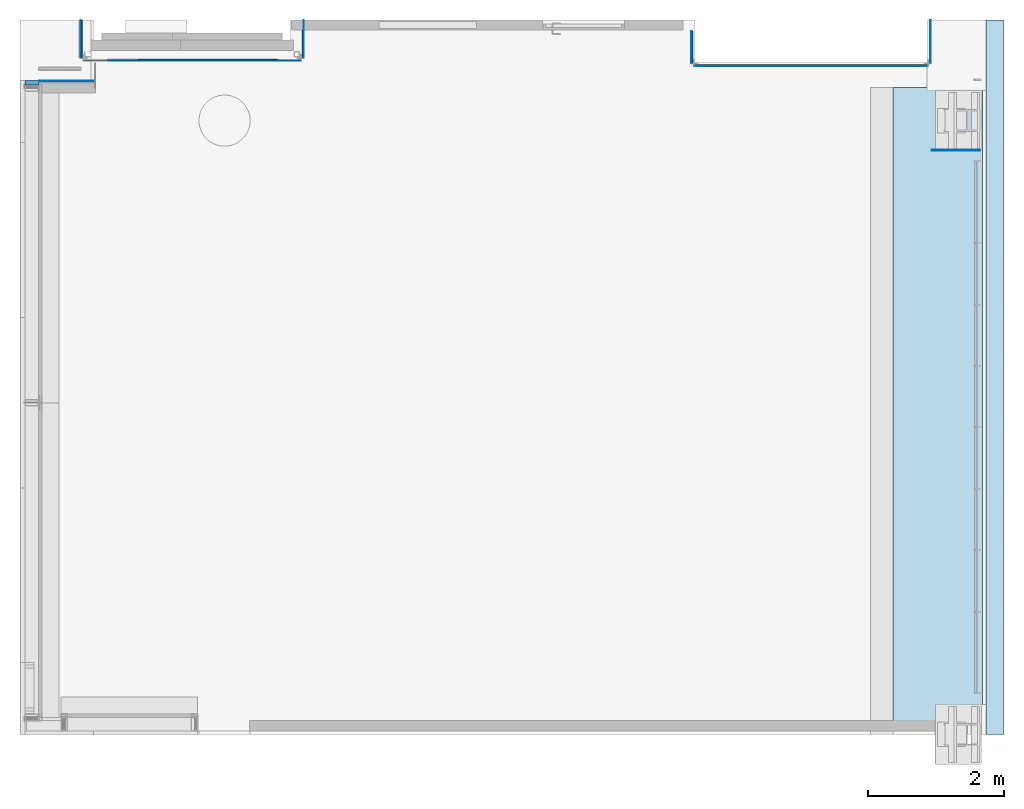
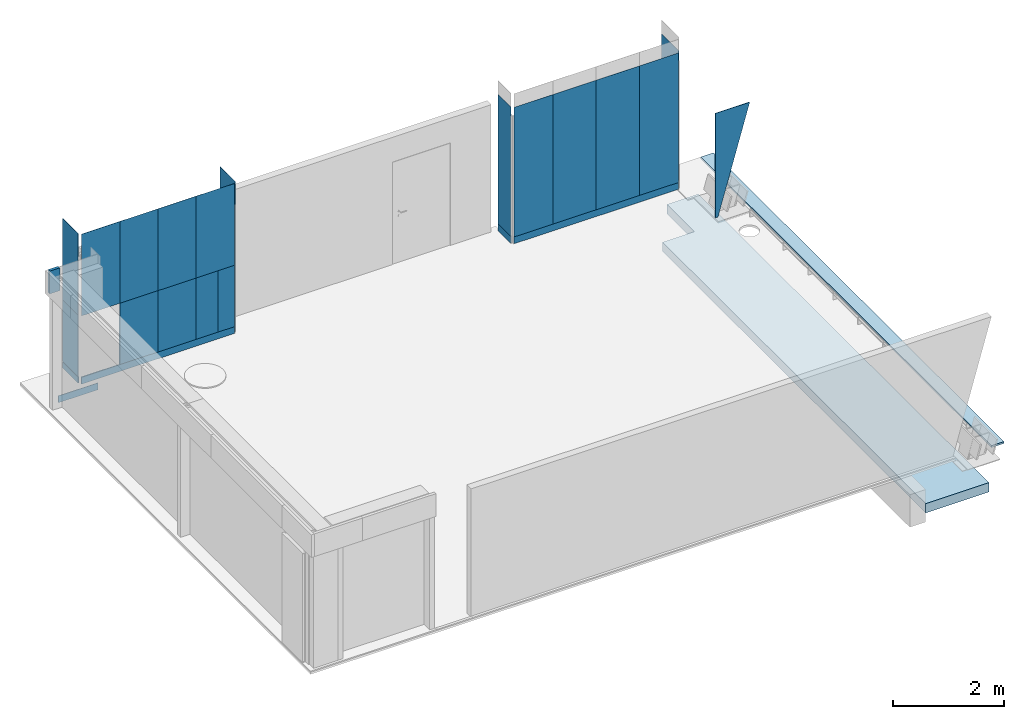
# One storey, part 5 of 14: 26 plates, 2 slabs, 11 elements without a shape of their own.
"""IFC2X3 building model written with IfcOpenShell, lengths in millimetres."""

from ifc_helpers import new_model, entity, si_unit, converted_unit, derived_unit, direction, frame, frame_2d, origin, origin_with_axes, origin_2d_with_axis, place, context, subcontext, project, spatial, polyline, rectangle, outline, extrude, faceted_brep, source, transform, mapped, material, layer, layer_set, type_object, element, aggregate, save


model = new_model("IFC2X3")

# Units and contexts
model_context = context("Model", 3, precision=0.01, world=frame((0.0, 4.29681676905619e-09, 0.0)), true_north=direction((4.01073788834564e-13, 1.0)))
plan_context = context("Plan", 3, precision=0.01, world=frame((0.0, 4.29681676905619e-09, 0.0)), true_north=direction((4.01073788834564e-13, 1.0)))
body_context = subcontext(model_context, "Body", "Model", "MODEL_VIEW")
ifc_project = project(units=[converted_unit("PLANEANGLEUNIT", "DEGREE", entity("IfcPositiveLengthMeasure", 0.0174532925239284), si_unit("PLANEANGLEUNIT", "RADIAN"), dimensions=[0, 0, 0, 0, 0, 0, 0]), si_unit("AREAUNIT", "SQUARE_METRE"), si_unit("LENGTHUNIT", "METRE", prefix="MILLI"), si_unit("MASSUNIT", "GRAM", prefix="KILO"), si_unit("POWERUNIT", "WATT"), si_unit("PRESSUREUNIT", "PASCAL"), si_unit("FORCEUNIT", "NEWTON", prefix="KILO"), si_unit("ELECTRICVOLTAGEUNIT", "VOLT"), si_unit("ELECTRICCURRENTUNIT", "AMPERE"), si_unit("THERMODYNAMICTEMPERATUREUNIT", "DEGREE_CELSIUS"), si_unit("TIMEUNIT", "SECOND"), si_unit("VOLUMEUNIT", "CUBIC_METRE"), derived_unit("LINEARVELOCITYUNIT", [(si_unit("LENGTHUNIT", "METRE"), 1), (si_unit("TIMEUNIT", "SECOND"), -1)]), derived_unit("VOLUMETRICFLOWRATEUNIT", [(si_unit("VOLUMEUNIT", "CUBIC_METRE"), 1), (si_unit("TIMEUNIT", "SECOND"), -1)]), derived_unit("THERMALTRANSMITTANCEUNIT", [(si_unit("POWERUNIT", "WATT"), 1), (si_unit("THERMODYNAMICTEMPERATUREUNIT", "KELVIN"), -1), (si_unit("AREAUNIT", "SQUARE_METRE"), -1)]), derived_unit("SOUNDPRESSUREUNIT", [(si_unit("PRESSUREUNIT", "PASCAL"), 1)])], contexts=[model_context, plan_context])

# Site, building, storey
site_placement = place(None, origin_with_axes())
site = spatial("IfcSite", under=ifc_project, at=site_placement, Name="ENGM", CompositionType="ELEMENT")
building_placement = place(site_placement, origin_with_axes())
building = spatial("IfcBuilding", under=site, at=building_placement, Name="TI", CompositionType="ELEMENT")
storey_placement = place(building_placement, frame((0.0, 0.0, 210900.0), z_axis=(0.0, 0.0, 1.0), x_axis=(1.0, 0.0, 0.0)))
storey = spatial("IfcBuildingStorey", under=building, at=storey_placement, Name="Nivå F", CompositionType="ELEMENT", Elevation=210900.0)

# Curtain wall, plates
curtain_wall_type_1 = type_object("IfcCurtainWallType", Name="Curtain Wall:A245 - IMK - Metal Kledning", PredefinedType="NOTDEFINED")
curtain_wall_1_placement = place(storey_placement, frame((0.0, 0.0, -210900.0), z_axis=(0.0, 0.0, 1.0), x_axis=(1.0, 0.0, 0.0)))
curtain_wall_1 = element("IfcCurtainWall", 1, at=curtain_wall_1_placement, inside=storey, type_object=curtain_wall_type_1, Name="Curtain Wall:A245 - IMK - Metal Kledning", ObjectType="Curtain Wall:A245 - IMK - Metal Kledning")
ifc_material_1 = material(Name="_NSW Stål, rustfritt")
plate_type_1 = type_object("IfcPlateType", Name="System Panel:A245 - KL-S01 - Veggkledning metallplate sokkel - IMK - 20mm", PredefinedType="CURTAIN_PANEL", material=ifc_material_1)
shared_shape_1 = source(origin(), body_context, "Body", "SweptSolid", [
    extrude(rectangle(XDim=150.000000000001, YDim=3418.00000000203, at=frame_2d((0.0, 8.31050783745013e-11), x_axis=(1.0, 0.0))), frame((0.0, -17.0, 75.0), z_axis=(0.0, 1.0, 0.0), x_axis=(0.0, 0.0, 1.0)), (0.0, 0.0, 1.0), 20.0),
])
plate_1_placement = place(curtain_wall_1_placement, frame((609600.006835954, 698800.000875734, 210900.0), z_axis=(0.0, 0.0, 1.0), x_axis=(-1.0, 0.0, 0.0)))
plate_1 = element("IfcPlate", 2, at=plate_1_placement, type_object=plate_type_1, material=ifc_material_1, Name="System Panel:A245 - KL-S01 - Veggkledning metallplate sokkel - IMK - 20mm", ObjectType="System Panel:A245 - KL-S01 - Veggkledning metallplate sokkel - IMK - 20mm", context=body_context, shape_type="MappedRepresentation", body=[
    mapped(shared_shape_1, transform((0.0, 0.0, 0.0), scale=1.0)),
])
ifc_material_2 = material(Name="T2_Metal_Aluminium")
plate_type_2 = type_object("IfcPlateType", Name="System Panel:A245 - KL-M03 - Veggkledning metallplate plan, for betongvegg", PredefinedType="CURTAIN_PANEL", material=ifc_material_2)
shared_shape_2 = source(origin(), body_context, "Body", "SweptSolid", [
    extrude(rectangle(XDim=3.0, YDim=809.000000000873, at=origin_2d_with_axis()), frame((0.0, 1.5, 0.0), z_axis=(0.0, 0.0, 1.0), x_axis=(0.0, 1.0, 0.0)), (0.0, 0.0, 1.0), 2850.00000000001),
])
plate_2_placement = place(curtain_wall_1_placement, frame((610904.506835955, 698800.000875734, 211050.0), z_axis=(0.0, 0.0, 1.0), x_axis=(-1.0, 0.0, 0.0)))
plate_2 = element("IfcPlate", 3, at=plate_2_placement, type_object=plate_type_2, material=ifc_material_2, Name="System Panel:A245 - KL-M03 - Veggkledning metallplate plan, for betongvegg", ObjectType="System Panel:A245 - KL-M03 - Veggkledning metallplate plan, for betongvegg", context=body_context, shape_type="MappedRepresentation", body=[
    mapped(shared_shape_2, transform((0.0, 0.0, 0.0), scale=1.0)),
])
plate_3_placement = place(curtain_wall_1_placement, frame((608295.506835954, 698800.000875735, 211050.0), z_axis=(0.0, 0.0, 1.0), x_axis=(-1.0, 0.0, 0.0)))
plate_3 = element("IfcPlate", 4, at=plate_3_placement, type_object=plate_type_2, material=ifc_material_2, Name="System Panel:A245 - KL-M03 - Veggkledning metallplate plan, for betongvegg", ObjectType="System Panel:A245 - KL-M03 - Veggkledning metallplate plan, for betongvegg", context=body_context, shape_type="MappedRepresentation", body=[
    mapped(shared_shape_2, transform((0.0, 0.0, 0.0), scale=1.0)),
])
plate_type_3 = type_object("IfcPlateType", Name="System Panel:A245 - KL-M03 - Veggkledning metallplate plan, for betongvegg", PredefinedType="CURTAIN_PANEL", material=ifc_material_2)
shared_shape_3 = source(origin(), body_context, "Body", "SweptSolid", [
    extrude(rectangle(XDim=3.0, YDim=900.000000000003, at=origin_2d_with_axis()), frame((0.0, 1.5, 0.0), z_axis=(0.0, 0.0, 1.0), x_axis=(0.0, 1.0, 0.0)), (0.0, 0.0, 1.0), 2850.00000000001),
])
plate_4_placement = place(curtain_wall_1_placement, frame((610050.006835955, 698800.000875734, 211050.0), z_axis=(0.0, 0.0, 1.0), x_axis=(-1.0, 0.0, 0.0)))
plate_4 = element("IfcPlate", 5, at=plate_4_placement, type_object=plate_type_3, material=ifc_material_2, Name="System Panel:A245 - KL-M03 - Veggkledning metallplate plan, for betongvegg", ObjectType="System Panel:A245 - KL-M03 - Veggkledning metallplate plan, for betongvegg", context=body_context, shape_type="MappedRepresentation", body=[
    mapped(shared_shape_3, transform((0.0, 0.0, 0.0), scale=1.0)),
])
plate_5_placement = place(curtain_wall_1_placement, frame((609150.006835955, 698800.000875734, 211050.0), z_axis=(0.0, 0.0, 1.0), x_axis=(-1.0, 0.0, 0.0)))
plate_5 = element("IfcPlate", 6, at=plate_5_placement, type_object=plate_type_3, material=ifc_material_2, Name="System Panel:A245 - KL-M03 - Veggkledning metallplate plan, for betongvegg", ObjectType="System Panel:A245 - KL-M03 - Veggkledning metallplate plan, for betongvegg", context=body_context, shape_type="MappedRepresentation", body=[
    mapped(shared_shape_3, transform((0.0, 0.0, 0.0), scale=1.0)),
])
aggregate(curtain_wall_1, [plate_1, plate_2, plate_4, plate_5, plate_3])

curtain_wall_2_placement = place(storey_placement, frame((0.0, 0.0, -210900.0), z_axis=(0.0, 0.0, 1.0), x_axis=(1.0, 0.0, 0.0)))
curtain_wall_2 = element("IfcCurtainWall", 7, at=curtain_wall_2_placement, inside=storey, type_object=curtain_wall_type_1, Name="Curtain Wall:A245 - IMK - Metal Kledning", ObjectType="Curtain Wall:A245 - IMK - Metal Kledning")
plate_type_4 = type_object("IfcPlateType", Name="System Panel:A245 - KL-S01 - Veggkledning metallplate sokkel - IMK - 20mm", PredefinedType="CURTAIN_PANEL", material=ifc_material_1)
shared_shape_4 = source(origin(), body_context, "Body", "SweptSolid", [
    extrude(rectangle(XDim=20.0, YDim=468.999999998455, at=origin_2d_with_axis()), frame((0.0, 7.0, 0.0), z_axis=(0.0, 0.0, 1.0), x_axis=(0.0, 1.0, 0.0)), (0.0, 0.0, 1.0), 150.000000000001),
])
plate_6_placement = place(curtain_wall_2_placement, frame((607850.000000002, 699075.499999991, 210900.0), z_axis=(0.0, 0.0, 1.0), x_axis=(0.0, -1.0, 0.0)))
plate_6 = element("IfcPlate", 8, at=plate_6_placement, type_object=plate_type_4, material=ifc_material_1, Name="System Panel:A245 - KL-S01 - Veggkledning metallplate sokkel - IMK - 20mm", ObjectType="System Panel:A245 - KL-S01 - Veggkledning metallplate sokkel - IMK - 20mm", context=body_context, shape_type="MappedRepresentation", body=[
    mapped(shared_shape_4, transform((0.0, 0.0, 0.0), scale=1.0)),
])
plate_type_5 = type_object("IfcPlateType", Name="System Panel:A245 - KL-M03 - Veggkledning metallplate plan, for betongvegg", PredefinedType="CURTAIN_PANEL", material=ifc_material_2)
shared_shape_5 = source(origin(), body_context, "Body", "SweptSolid", [
    extrude(rectangle(XDim=3.0, YDim=468.999999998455, at=origin_2d_with_axis()), frame((0.0, -1.50000000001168, 0.0), z_axis=(0.0, 0.0, 1.0), x_axis=(0.0, 1.0, 0.0)), (0.0, 0.0, 1.0), 2850.00000000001),
])
plate_7_placement = place(curtain_wall_2_placement, frame((607850.000000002, 699075.499999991, 211050.0), z_axis=(0.0, 0.0, 1.0), x_axis=(0.0, -1.0, 0.0)))
plate_7 = element("IfcPlate", 9, at=plate_7_placement, type_object=plate_type_5, material=ifc_material_2, Name="System Panel:A245 - KL-M03 - Veggkledning metallplate plan, for betongvegg", ObjectType="System Panel:A245 - KL-M03 - Veggkledning metallplate plan, for betongvegg", context=body_context, shape_type="MappedRepresentation", body=[
    mapped(shared_shape_5, transform((0.0, 0.0, 0.0), scale=1.0)),
])
aggregate(curtain_wall_2, [plate_6, plate_7])

curtain_wall_3_placement = place(storey_placement, frame((0.0, 0.0, -210900.0), z_axis=(0.0, 0.0, 1.0), x_axis=(1.0, 0.0, 0.0)))
curtain_wall_3 = element("IfcCurtainWall", 10, at=curtain_wall_3_placement, inside=storey, type_object=curtain_wall_type_1, Name="Curtain Wall:A245 - IMK - Metal Kledning", ObjectType="Curtain Wall:A245 - IMK - Metal Kledning")
plate_type_6 = type_object("IfcPlateType", Name="System Panel:A245 - KL-S01 - Veggkledning metallplate sokkel - IMK - 20mm", PredefinedType="CURTAIN_PANEL", material=ifc_material_1)
shared_shape_6 = source(origin(), body_context, "Body", "SweptSolid", [
    extrude(rectangle(XDim=20.0, YDim=406.500000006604, at=origin_2d_with_axis()), frame((0.0, 7.0, 0.0), z_axis=(0.0, 0.0, 1.0), x_axis=(0.0, 1.0, 0.0)), (0.0, 0.0, 1.0), 150.000000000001),
])
plate_8_placement = place(curtain_wall_3_placement, frame((602157.506445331, 699122.249999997, 210900.0), z_axis=(0.0, 0.0, 1.0), x_axis=(0.0, 1.0, 0.0)))
plate_8 = element("IfcPlate", 11, at=plate_8_placement, type_object=plate_type_6, material=ifc_material_1, Name="System Panel:A245 - KL-S01 - Veggkledning metallplate sokkel - IMK - 20mm", ObjectType="System Panel:A245 - KL-S01 - Veggkledning metallplate sokkel - IMK - 20mm", context=body_context, shape_type="MappedRepresentation", body=[
    mapped(shared_shape_6, transform((0.0, 0.0, 0.0), scale=1.0)),
])
ifc_material_3 = material(Name="T2_Metallkledning_Laserskåret")
plate_type_7 = type_object("IfcPlateType", Name="System Panel:A245 - KL-M02 - Veggkledning aluminium laserskåret mønster", PredefinedType="CURTAIN_PANEL", material=ifc_material_3)
shared_shape_7 = source(origin(), body_context, "Body", "SweptSolid", [
    extrude(rectangle(XDim=2100.00000000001, YDim=406.500000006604, at=frame_2d((33.3333333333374, 0.0), x_axis=(1.0, 0.0))), frame((0.0, -3.0, 1016.66666666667), z_axis=(0.0, 1.0, 0.0), x_axis=(0.0, 0.0, 1.0)), (0.0, 0.0, 1.0), 3.0),
])
plate_9_placement = place(curtain_wall_3_placement, frame((602157.506445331, 699122.249999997, 211050.0), z_axis=(0.0, 0.0, 1.0), x_axis=(0.0, 1.0, 0.0)))
plate_9 = element("IfcPlate", 12, at=plate_9_placement, type_object=plate_type_7, material=ifc_material_3, Name="System Panel:A245 - KL-M02 - Veggkledning aluminium laserskåret mønster", ObjectType="System Panel:A245 - KL-M02 - Veggkledning aluminium laserskåret mønster", context=body_context, shape_type="MappedRepresentation", body=[
    mapped(shared_shape_7, transform((0.0, 0.0, 0.0), scale=1.0)),
])

curtain_wall_4_placement = place(storey_placement, frame((0.0, 0.0, -210900.0), z_axis=(0.0, 0.0, 1.0), x_axis=(1.0, 0.0, 0.0)))
curtain_wall_4 = element("IfcCurtainWall", 13, at=curtain_wall_4_placement, inside=storey, type_object=curtain_wall_type_1, Name="Curtain Wall:A245 - IMK - Metal Kledning", ObjectType="Curtain Wall:A245 - IMK - Metal Kledning")
plate_type_8 = type_object("IfcPlateType", Name="System Panel:A245 - KL-M02 - Veggkledning aluminium laserskåret mønster", PredefinedType="CURTAIN_PANEL", material=ifc_material_3)
shared_shape_8 = source(origin(), body_context, "Body", "SweptSolid", [
    extrude(rectangle(XDim=3.0, YDim=339.999999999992, at=origin_2d_with_axis()), frame((0.0, -1.5, 0.0), z_axis=(0.0, 0.0, 1.0), x_axis=(0.0, 1.0, 0.0)), (0.0, 0.0, 1.0), 1350.00000000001),
])
plate_10_placement = place(curtain_wall_4_placement, frame((601945.003222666, 698877.999999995, 211050.0), z_axis=(0.0, 0.0, 1.0), x_axis=(1.0, 0.0, 0.0)))
plate_10 = element("IfcPlate", 14, at=plate_10_placement, type_object=plate_type_8, material=ifc_material_3, Name="System Panel:A245 - KL-M02 - Veggkledning aluminium laserskåret mønster", ObjectType="System Panel:A245 - KL-M02 - Veggkledning aluminium laserskåret mønster", context=body_context, shape_type="MappedRepresentation", body=[
    mapped(shared_shape_8, transform((0.0, 0.0, 0.0), scale=1.0)),
])
ifc_material_4 = material(Name="T2_Ventilasjonsrist")
plate_type_9 = type_object("IfcPlateType", Name="System Panel:A245 - KL-M07 - Veggkledning ventilasjonsrist tekniske sjakter", PredefinedType="CURTAIN_PANEL", material=ifc_material_4)
shared_shape_9 = source(origin(), body_context, "Body", "SweptSolid", [
    extrude(rectangle(XDim=30.0, YDim=455.000000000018, at=origin_2d_with_axis()), frame((0.0, 12.0, 0.0), z_axis=(0.0, 0.0, 1.0), x_axis=(0.0, 1.0, 0.0)), (0.0, 0.0, 1.0), 1350.00000000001),
])
plate_11_placement = place(curtain_wall_4_placement, frame((601547.503222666, 698877.999999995, 211050.0), z_axis=(0.0, 0.0, 1.0), x_axis=(1.0, 0.0, 0.0)))
plate_11 = element("IfcPlate", 15, at=plate_11_placement, type_object=plate_type_9, material=ifc_material_4, Name="System Panel:A245 - KL-M07 - Veggkledning ventilasjonsrist tekniske sjakter", ObjectType="System Panel:A245 - KL-M07 - Veggkledning ventilasjonsrist tekniske sjakter", context=body_context, shape_type="MappedRepresentation", body=[
    mapped(shared_shape_9, transform((0.0, 0.0, 0.0), scale=1.0)),
])
plate_type_10 = type_object("IfcPlateType", Name="System Panel:A245 - KL-M07 - Veggkledning ventilasjonsrist tekniske sjakter", PredefinedType="CURTAIN_PANEL", material=ifc_material_4)
shared_shape_10 = source(origin(), body_context, "Body", "SweptSolid", [
    extrude(rectangle(XDim=30.0, YDim=794.99999999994, at=origin_2d_with_axis()), frame((0.0, 12.0, 0.0), z_axis=(0.0, 0.0, 1.0), x_axis=(0.0, 1.0, 0.0)), (0.0, 0.0, 1.0), 1350.00000000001),
])
plate_12_placement = place(curtain_wall_4_placement, frame((600127.503222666, 698877.999999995, 211050.0), z_axis=(0.0, 0.0, 1.0), x_axis=(1.0, 0.0, 0.0)))
plate_12 = element("IfcPlate", 16, at=plate_12_placement, type_object=plate_type_10, material=ifc_material_4, Name="System Panel:A245 - KL-M07 - Veggkledning ventilasjonsrist tekniske sjakter", ObjectType="System Panel:A245 - KL-M07 - Veggkledning ventilasjonsrist tekniske sjakter", context=body_context, shape_type="MappedRepresentation", body=[
    mapped(shared_shape_10, transform((0.0, 0.0, 0.0), scale=1.0)),
])
plate_13_placement = place(curtain_wall_4_placement, frame((600922.503222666, 698877.999999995, 211050.0), z_axis=(0.0, 0.0, 1.0), x_axis=(1.0, 0.0, 0.0)))
plate_13 = element("IfcPlate", 17, at=plate_13_placement, type_object=plate_type_10, material=ifc_material_4, Name="System Panel:A245 - KL-M07 - Veggkledning ventilasjonsrist tekniske sjakter", ObjectType="System Panel:A245 - KL-M07 - Veggkledning ventilasjonsrist tekniske sjakter", context=body_context, shape_type="MappedRepresentation", body=[
    mapped(shared_shape_10, transform((0.0, 0.0, 0.0), scale=1.0)),
])

# Curtain wall, plate
curtain_wall_type_2 = type_object("IfcCurtainWallType", Name="Curtain Wall:A245 - IGK - Glass Kledning", PredefinedType="NOTDEFINED")
curtain_wall_5_placement = place(storey_placement, frame((0.0, 0.0, -210900.0), z_axis=(0.0, 0.0, 1.0), x_axis=(1.0, 0.0, 0.0)))
curtain_wall_5 = element("IfcCurtainWall", 18, at=curtain_wall_5_placement, inside=storey, type_object=curtain_wall_type_2, Name="Curtain Wall:A245 - IGK - Glass Kledning", ObjectType="Curtain Wall:A245 - IGK - Glass Kledning")
plate_type_11 = type_object("IfcPlateType", Name="System Panel:A245 - KL-S01 - Veggkledning metallplate sokkel - IGK - 10mm", PredefinedType="CURTAIN_PANEL", material=ifc_material_1)
shared_shape_11 = source(origin(), body_context, "Body", "SweptSolid", [
    extrude(rectangle(XDim=10.0, YDim=823.003222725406, at=origin_2d_with_axis()), frame((0.0, -5.0, 0.0), z_axis=(0.0, 0.0, 1.0), x_axis=(0.0, 1.0, 0.0)), (0.0, 0.0, 1.0), 150.000000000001),
])
plate_14_placement = place(curtain_wall_5_placement, frame((598690.501611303, 698584.999999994, 210900.0), z_axis=(0.0, 0.0, 1.0), x_axis=(1.0, 0.0, 0.0)))
plate_14 = element("IfcPlate", 19, at=plate_14_placement, type_object=plate_type_11, material=ifc_material_1, Name="System Panel:A245 - KL-S01 - Veggkledning metallplate sokkel - IGK - 10mm", ObjectType="System Panel:A245 - KL-S01 - Veggkledning metallplate sokkel - IGK - 10mm", context=body_context, shape_type="MappedRepresentation", body=[
    mapped(shared_shape_11, transform((0.0, 0.0, 0.0), scale=1.0)),
])
aggregate(curtain_wall_5, [plate_14])

curtain_wall_6_placement = place(storey_placement, frame((0.0, 0.0, -210900.0), z_axis=(0.0, 0.0, 1.0), x_axis=(1.0, 0.0, 0.0)))
curtain_wall_6 = element("IfcCurtainWall", 20, at=curtain_wall_6_placement, inside=storey, type_object=curtain_wall_type_1, Name="Curtain Wall:A245 - IMK - Metal Kledning", ObjectType="Curtain Wall:A245 - IMK - Metal Kledning")
plate_type_12 = type_object("IfcPlateType", Name="System Panel:A245 - KL-S01 - Veggkledning metallplate sokkel - IMK - 20mm", PredefinedType="CURTAIN_PANEL", material=ifc_material_1)
shared_shape_12 = source(origin(), body_context, "Body", "SweptSolid", [
    extrude(rectangle(XDim=20.0, YDim=3181.37564625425, at=origin_2d_with_axis()), frame((0.0, 7.0, 0.0), z_axis=(0.0, 0.0, 1.0), x_axis=(0.0, 1.0, 0.0)), (0.0, 0.0, 1.0), 150.000000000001),
])
plate_15_placement = place(curtain_wall_6_placement, frame((600524.315399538, 698877.999999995, 210900.0), z_axis=(0.0, 0.0, 1.0), x_axis=(1.0, 0.0, 0.0)))
plate_15 = element("IfcPlate", 21, at=plate_15_placement, type_object=plate_type_12, material=ifc_material_1, Name="System Panel:A245 - KL-S01 - Veggkledning metallplate sokkel - IMK - 20mm", ObjectType="System Panel:A245 - KL-S01 - Veggkledning metallplate sokkel - IMK - 20mm", context=body_context, shape_type="MappedRepresentation", body=[
    mapped(shared_shape_12, transform((0.0, 0.0, 0.0), scale=1.0)),
])
aggregate(curtain_wall_6, [plate_15])

curtain_wall_type_3 = type_object("IfcCurtainWallType", Name="Curtain Wall:A242 - IGV - Glass - 10 mm", PredefinedType="NOTDEFINED")
curtain_wall_7_placement = place(storey_placement, frame((0.0, 0.0, -210900.0), z_axis=(0.0, 0.0, 1.0), x_axis=(1.0, 0.0, 0.0)))
curtain_wall_7 = element("IfcCurtainWall", 22, at=curtain_wall_7_placement, inside=storey, type_object=curtain_wall_type_3, Name="Curtain Wall:A242 - IGV - Glass - 10 mm", ObjectType="Curtain Wall:A242 - IGV - Glass - 10 mm")
ifc_material_5 = material(Name="Glass Diagrid opalisert")
plate_type_13 = type_object("IfcPlateType", Name="System Panel:A245 - KL-G04 - Veggkledning glasspanel", PredefinedType="CURTAIN_PANEL", material=ifc_material_5)
shared_shape_13 = source(origin(), body_context, "Body", "SweptSolid", [
    extrude(outline(polyline([(-1143.86735569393, -183.558083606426), (1249.56747184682, -183.558083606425), (1052.2562809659, 501.740388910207), (-1157.95639711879, -134.624221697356), (-1143.86735569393, -183.558083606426)])), frame((165.554045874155, -10.0, 1150.0), z_axis=(0.0, 1.0, 0.0), x_axis=(-0.27668026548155, 0.0, 0.960962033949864)), (0.0, 0.0, 1.0), 10.0),
])
plate_16_placement = place(curtain_wall_7_placement, frame((611724.702787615, 697560.163867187, 211000.0), z_axis=(0.0, 0.0, 1.0), x_axis=(-1.0, 0.0, 0.0)))
plate_16 = element("IfcPlate", 23, at=plate_16_placement, type_object=plate_type_13, material=ifc_material_5, Name="System Panel:A245 - KL-G04 - Veggkledning glasspanel", ObjectType="System Panel:A245 - KL-G04 - Veggkledning glasspanel", context=body_context, shape_type="MappedRepresentation", body=[
    mapped(shared_shape_13, transform((0.0, 0.0, 0.0), scale=1.0)),
])
aggregate(curtain_wall_7, [plate_16])

curtain_wall_8_placement = place(storey_placement, frame((0.0, 0.0, -210900.0), z_axis=(0.0, 0.0, 1.0), x_axis=(1.0, 0.0, 0.0)))
curtain_wall_8 = element("IfcCurtainWall", 24, at=curtain_wall_8_placement, inside=storey, type_object=curtain_wall_type_1, Name="Curtain Wall:A245 - IMK - Metal Kledning", ObjectType="Curtain Wall:A245 - IMK - Metal Kledning")
ifc_material_6 = material(Name="Metal - Preget plate")
plate_type_14 = type_object("IfcPlateType", Name="System Panel:A245 - KL- X - butikkfasade avklares", PredefinedType="CURTAIN_PANEL", material=ifc_material_6)
shared_shape_14 = source(origin(), body_context, "Body", "SweptSolid", [
    extrude(rectangle(XDim=60.0, YDim=209.000000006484, at=origin_2d_with_axis()), frame((0.0, -30.0, 0.0), z_axis=(0.0, 0.0, 1.0), x_axis=(0.0, 1.0, 0.0)), (0.0, 0.0, 1.0), 500.000000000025),
])
plate_17_placement = place(curtain_wall_8_placement, frame((598174.499999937, 698584.999999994, 213400.0), z_axis=(0.0, 0.0, 1.0), x_axis=(1.0, 0.0, 0.0)))
plate_17 = element("IfcPlate", 25, at=plate_17_placement, type_object=plate_type_14, material=ifc_material_6, Name="System Panel:A245 - KL- X - butikkfasade avklares", ObjectType="System Panel:A245 - KL- X - butikkfasade avklares", context=body_context, shape_type="MappedRepresentation", body=[
    mapped(shared_shape_14, transform((0.0, 0.0, 0.0), scale=1.0)),
])
aggregate(curtain_wall_8, [plate_17])

curtain_wall_9_placement = place(storey_placement, frame((0.0, 0.0, -210900.0), z_axis=(0.0, 0.0, 1.0), x_axis=(1.0, 0.0, 0.0)))
curtain_wall_9 = element("IfcCurtainWall", 26, at=curtain_wall_9_placement, inside=storey, type_object=curtain_wall_type_1, Name="Curtain Wall:A245 - IMK - Metal Kledning", ObjectType="Curtain Wall:A245 - IMK - Metal Kledning")
plate_type_15 = type_object("IfcPlateType", Name="System Panel:A245 - KL-M03 - Veggkledning metallplate plan, for betongvegg", PredefinedType="CURTAIN_PANEL", material=ifc_material_2)
plate_18_placement = place(curtain_wall_9_placement, frame((611350.006835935, 699320.499999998, 211050.0), z_axis=(0.0, 0.0, 1.0), x_axis=(0.0, 1.0, 0.0)))
plate_18 = element("IfcPlate", 27, at=plate_18_placement, type_object=plate_type_15, Name="System Panel:A245 - KL-M03 - Veggkledning metallplate plan, for betongvegg", ObjectType="System Panel:A245 - KL-M03 - Veggkledning metallplate plan, for betongvegg", context=body_context, shape_type="Brep", body=[
    faceted_brep([(155.000000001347, -3.00000000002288, 2850.00000000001), (155.000000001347, -3.00000000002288, 0.0), (-479.500000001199, -3.00000000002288, 0.0), (-479.500000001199, -3.00000000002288, 2850.00000000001), (155.000000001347, -2.28759233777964e-11, 0.0), (155.000000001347, -2.28759233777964e-11, 2850.00000000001), (-479.500000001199, -2.28759233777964e-11, 2850.00000000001), (-479.500000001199, -2.28759233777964e-11, 0.0)], [[[0, 1, 2, 3]], [[4, 5, 6, 7]], [[7, 6, 3, 2]], [[1, 4, 7, 2]], [[5, 0, 3, 6]], [[5, 4, 1, 0]]], orient=[[False], [False], [False], [False], [False], [False]]),
])
aggregate(curtain_wall_9, [plate_18])

curtain_wall_10_placement = place(storey_placement, frame((0.0, 0.0, -210900.0), z_axis=(0.0, 0.0, 1.0), x_axis=(1.0, 0.0, 0.0)))
curtain_wall_10 = element("IfcCurtainWall", 28, at=curtain_wall_10_placement, inside=storey, type_object=curtain_wall_type_1, Name="Curtain Wall:A245 - IMK - Metal Kledning", ObjectType="Curtain Wall:A245 - IMK - Metal Kledning")
plate_type_16 = type_object("IfcPlateType", Name="System Panel:A245 - KL-M02 - Veggkledning aluminium laserskåret mønster", PredefinedType="CURTAIN_PANEL", material=ifc_material_3)
plate_19_placement = place(curtain_wall_10_placement, frame((598892.513867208, 699359.499999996, 211050.0), z_axis=(0.0, 0.0, 1.0), x_axis=(0.0, 1.0, 0.0)))
plate_19 = element("IfcPlate", 29, at=plate_19_placement, type_object=plate_type_16, Name="System Panel:A245 - KL-M02 - Veggkledning aluminium laserskåret mønster", ObjectType="System Panel:A245 - KL-M02 - Veggkledning aluminium laserskåret mønster", context=body_context, shape_type="Brep", body=[
    faceted_brep([(116.00000000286, -6.03586070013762e-11, 1350.00000000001), (116.00000000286, -6.03586070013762e-11, 0.0), (-440.71249308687, -6.03586070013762e-11, 0.0), (-440.71249308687, -6.03586070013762e-11, 1350.00000000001), (116.00000000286, 2.99999999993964, 0.0), (116.00000000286, 2.99999999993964, 1350.00000000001), (-440.71249308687, 2.99999999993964, 1350.00000000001), (-440.71249308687, 2.99999999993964, 0.0)], [[[0, 1, 2, 3]], [[4, 5, 6, 7]], [[7, 6, 3, 2]], [[1, 4, 7, 2]], [[5, 0, 3, 6]], [[5, 4, 1, 0]]], orient=[[False], [False], [False], [False], [False], [False]]),
])

# Plate
plate_type_17 = type_object("IfcPlateType", Name="System Panel:A245 - KL-M02 - Veggkledning aluminium laserskåret mønster", PredefinedType="CURTAIN_PANEL", material=ifc_material_3)
plate_20_placement = place(curtain_wall_4_placement, frame((599332.503222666, 698877.999999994, 212400.0), z_axis=(0.0, 0.0, 1.0), x_axis=(1.0, 0.0, 0.0)))
plate_20 = element("IfcPlate", 30, at=plate_20_placement, type_object=plate_type_17, Name="System Panel:A245 - KL-M02 - Veggkledning aluminium laserskåret mønster", ObjectType="System Panel:A245 - KL-M02 - Veggkledning aluminium laserskåret mønster", context=body_context, shape_type="Brep", body=[
    faceted_brep([(397.500000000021, -3.0, 1.04591890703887e-11), (397.500000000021, 0.0, 1.04591890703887e-11), (-397.499999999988, 0.0, 1.04591890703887e-11), (-397.499999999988, -3.0, 1.04591890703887e-11), (-397.499999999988, 0.0, 1800.0), (-397.499999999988, -3.0, 1800.0), (397.500000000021, -3.0, 1800.0), (397.500000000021, 0.0, 1800.0)], [[[0, 1, 2, 3]], [[4, 5, 3, 2]], [[6, 7, 1, 0]], [[5, 6, 0, 3]], [[7, 4, 2, 1]], [[7, 6, 5, 4]]], orient=[[False], [False], [False], [False], [False], [False]]),
])

plate_type_18 = type_object("IfcPlateType", Name="System Panel:A245 - KL-M02 - Veggkledning aluminium laserskåret mønster", PredefinedType="CURTAIN_PANEL", material=ifc_material_3)
plate_21_placement = place(curtain_wall_4_placement, frame((600127.503222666, 698877.999999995, 212400.0), z_axis=(0.0, 0.0, 1.0), x_axis=(1.0, 0.0, 0.0)))
plate_21 = element("IfcPlate", 31, at=plate_21_placement, type_object=plate_type_18, Name="System Panel:A245 - KL-M02 - Veggkledning aluminium laserskåret mønster", ObjectType="System Panel:A245 - KL-M02 - Veggkledning aluminium laserskåret mønster", context=body_context, shape_type="Brep", body=[
    faceted_brep([(-396.923567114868, -3.00000000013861, 1800.0), (396.923567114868, -3.00000000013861, 1800.0), (396.923567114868, -3.00000000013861, 0.0), (-396.923567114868, -3.00000000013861, 0.0), (396.923567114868, -1.38607125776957e-10, 1800.0), (396.923567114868, -1.38607125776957e-10, 0.0), (-396.923567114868, -1.38607125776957e-10, 1800.0), (-396.923567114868, -1.38607125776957e-10, 0.0)], [[[0, 1, 2, 3]], [[1, 4, 5, 2]], [[4, 6, 7, 5]], [[6, 0, 3, 7]], [[3, 2, 5, 7]], [[6, 4, 1, 0]]], orient=[[False], [False], [False], [False], [False], [False]]),
])

plate_22_placement = place(curtain_wall_4_placement, frame((600922.503222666, 698877.999999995, 212400.0), z_axis=(0.0, 0.0, 1.0), x_axis=(1.0, 0.0, 0.0)))
plate_22 = element("IfcPlate", 32, at=plate_22_placement, type_object=plate_type_18, Name="System Panel:A245 - KL-M02 - Veggkledning aluminium laserskåret mønster", ObjectType="System Panel:A245 - KL-M02 - Veggkledning aluminium laserskåret mønster", context=body_context, shape_type="Brep", body=[
    faceted_brep([(-396.923567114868, -3.00000000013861, 1800.0), (396.923567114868, -3.00000000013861, 1800.0), (396.923567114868, -3.00000000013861, 0.0), (-396.923567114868, -3.00000000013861, 0.0), (396.923567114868, -1.38607125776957e-10, 1800.0), (396.923567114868, -1.38607125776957e-10, 0.0), (-396.923567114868, -1.38607125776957e-10, 1800.0), (-396.923567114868, -1.38607125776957e-10, 0.0)], [[[0, 1, 2, 3]], [[1, 4, 5, 2]], [[4, 6, 7, 5]], [[6, 0, 3, 7]], [[3, 2, 5, 7]], [[6, 4, 1, 0]]], orient=[[False], [False], [False], [False], [False], [False]]),
])

plate_type_19 = type_object("IfcPlateType", Name="System Panel:A245 - KL-M02 - Veggkledning aluminium laserskåret mønster", PredefinedType="CURTAIN_PANEL", material=ifc_material_3)
plate_23_placement = place(curtain_wall_4_placement, frame((601717.503222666, 698877.999999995, 212400.0), z_axis=(0.0, 0.0, 1.0), x_axis=(1.0, 0.0, 0.0)))
plate_23 = element("IfcPlate", 33, at=plate_23_placement, type_object=plate_type_19, Name="System Panel:A245 - KL-M02 - Veggkledning aluminium laserskåret mønster", ObjectType="System Panel:A245 - KL-M02 - Veggkledning aluminium laserskåret mønster", context=body_context, shape_type="Brep", body=[
    faceted_brep([(397.500000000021, -3.0, 1.04591890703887e-11), (397.500000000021, 0.0, 1.04591890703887e-11), (-397.500000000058, 0.0, 1.04591890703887e-11), (-397.500000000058, -3.0, 1.04591890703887e-11), (-397.500000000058, 0.0, 1800.0), (-397.500000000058, -3.0, 1800.0), (397.500000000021, -3.0, 1800.0), (397.500000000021, 0.0, 1800.0)], [[[0, 1, 2, 3]], [[4, 5, 3, 2]], [[6, 7, 1, 0]], [[5, 6, 0, 3]], [[7, 4, 2, 1]], [[7, 6, 5, 4]]], orient=[[False], [False], [False], [False], [False], [False]]),
])

aggregate(curtain_wall_4, [plate_12, plate_13, plate_11, plate_10, plate_20, plate_21, plate_22, plate_23])

plate_type_20 = type_object("IfcPlateType", Name="System Panel:A245 - KL-M02 - Veggkledning aluminium laserskåret mønster", PredefinedType="CURTAIN_PANEL", material=ifc_material_3)
plate_24_placement = place(curtain_wall_10_placement, frame((598892.513867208, 699358.499999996, 212404.0), z_axis=(0.0, 0.0, 1.0), x_axis=(0.0, 1.0, 0.0)))
plate_24 = element("IfcPlate", 34, at=plate_24_placement, type_object=plate_type_20, Name="System Panel:A245 - KL-M02 - Veggkledning aluminium laserskåret mønster", ObjectType="System Panel:A245 - KL-M02 - Veggkledning aluminium laserskåret mønster", context=body_context, shape_type="Brep", body=[
    faceted_brep([(117.00000000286, 0.0, -8.18545231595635e-12), (117.00000000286, 3.0, -8.18545231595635e-12), (-439.500000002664, 3.0, -8.18545231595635e-12), (-439.500000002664, 0.0, -8.18545231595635e-12), (-439.500000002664, 3.0, 1796.0), (-439.500000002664, 0.0, 1796.0), (117.00000000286, -1.13686837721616e-13, 1796.0), (117.00000000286, 3.00000000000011, 1796.0)], [[[0, 1, 2, 3]], [[4, 5, 3, 2]], [[5, 6, 0, 3]], [[1, 7, 4, 2]], [[7, 1, 0, 6]], [[6, 5, 4, 7]]], orient=[[False], [False], [False], [False], [False], [False]]),
])

aggregate(curtain_wall_10, [plate_24, plate_19])

plate_type_21 = type_object("IfcPlateType", Name="System Panel:A245 - KL-M02 - Veggkledning aluminium laserskåret mønster", PredefinedType="CURTAIN_PANEL", material=ifc_material_3)
plate_25_placement = place(curtain_wall_3_placement, frame((602157.506445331, 699204.499999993, 213150.0), z_axis=(0.0, 0.0, 1.0), x_axis=(0.0, 1.0, 0.0)))
plate_25 = element("IfcPlate", 35, at=plate_25_placement, type_object=plate_type_21, Name="System Panel:A245 - KL-M02 - Veggkledning aluminium laserskåret mønster", ObjectType="System Panel:A245 - KL-M02 - Veggkledning aluminium laserskåret mønster", context=body_context, shape_type="Brep", body=[
    faceted_brep([(121.00000000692, -3.0, 0.0), (121.00000000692, 0.0, 0.0), (-285.499999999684, 0.0, 0.0), (-285.499999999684, -3.0, 0.0), (-285.499999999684, 0.0, 1050.0), (-285.499999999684, -3.0, 1050.0), (271.000000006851, -3.0, 251.999999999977), (271.000000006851, 0.0, 251.999999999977), (121.00000000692, 0.0, 251.999999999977), (121.00000000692, -3.0, 251.999999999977), (271.000000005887, -3.0, 1050.0), (271.000000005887, 0.0, 1050.0)], [[[0, 1, 2, 3]], [[4, 5, 3, 2]], [[6, 7, 8, 9]], [[9, 8, 1, 0]], [[5, 10, 6, 9, 0, 3]], [[7, 11, 4, 2, 1, 8]], [[11, 7, 6, 10]], [[10, 5, 4, 11]]], orient=[[False], [False], [False], [False], [False], [False], [False], [False]]),
])

aggregate(curtain_wall_3, [plate_8, plate_9, plate_25])

# Curtain wall, plate
curtain_wall_11_placement = place(storey_placement, frame((0.0, 0.0, -210900.0), z_axis=(0.0, 0.0, 1.0), x_axis=(1.0, 0.0, 0.0)))
curtain_wall_11 = element("IfcCurtainWall", 36, at=curtain_wall_11_placement, inside=storey, type_object=curtain_wall_type_1, Name="Curtain Wall:A245 - IMK - Metal Kledning", ObjectType="Curtain Wall:A245 - IMK - Metal Kledning")
plate_type_22 = type_object("IfcPlateType", Name="System Panel:A245 - KL-S01 - Veggkledning metallplate sokkel - IMK - 20mm", PredefinedType="CURTAIN_PANEL", material=ifc_material_1)
plate_26_placement = place(curtain_wall_11_placement, frame((598892.513867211, 701609.495181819, 210910.0), z_axis=(0.0, 0.0, 1.0), x_axis=(0.0, -1.0, 0.0)))
plate_26 = element("IfcPlate", 37, at=plate_26_placement, type_object=plate_type_22, Name="System Panel:A245 - KL-S01 - Veggkledning metallplate sokkel - IMK - 20mm", ObjectType="System Panel:A245 - KL-S01 - Veggkledning metallplate sokkel - IMK - 20mm", context=body_context, shape_type="Brep", body=[
    faceted_brep([(2133.99518182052, -3.0, 0.0), (2133.99518182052, -3.0, 130.000000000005), (2690.5048181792, -3.0, 130.000000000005), (2690.5048181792, -3.0, 0.0), (2690.5048181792, 17.0, 130.000000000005), (2690.5048181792, 17.0, 0.0), (2133.99518182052, 17.0, 130.000000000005), (2133.99518182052, 17.0, 0.0)], [[[0, 1, 2, 3]], [[3, 2, 4, 5]], [[6, 7, 5, 4]], [[7, 0, 3, 5]], [[1, 6, 4, 2]], [[7, 6, 1, 0]]], orient=[[False], [False], [False], [False], [False], [False]]),
])
aggregate(curtain_wall_11, [plate_26])

# Slabs
ifc_material_7 = material(Name="_T2 Rist over konvektor pirrot 40x40mm")
ifc_layer_1 = layer(ifc_material_7, 40.0)
ifc_layer_set_1 = layer_set([ifc_layer_1], Name="Floor:A254 - Rist over konvektor Pirrot - 40 mm")
slab_type_1 = type_object("IfcSlabType", Name="Floor:A254 - Rist over konvektor Pirrot - 40 mm", PredefinedType="FLOOR", material=ifc_layer_set_1)
slab_1_placement = place(storey_placement, frame((612166.265557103, 486823.340091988, -40.0), z_axis=(0.0, 0.0, 1.0), x_axis=(1.0, 0.0, 0.0)))
element("IfcSlab", 38, at=slab_1_placement, inside=storey, type_object=slab_type_1, Name="Floor:A254 - Rist over konvektor Pirrot - 40 mm:7", ObjectType="Floor:A254 - Rist over konvektor Pirrot - 40 mm", PredefinedType="FLOOR", context=body_context, shape_type="Brep", body=[
    faceted_brep([(2.7648638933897e-10, 202176.659908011, 40.0), (2.7648638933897e-10, 202176.659908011, 9.09494701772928e-12), (2.7648638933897e-10, 212652.159908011, 9.09494701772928e-12), (2.7648638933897e-10, 212652.159908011, 40.0), (263.734180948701, 212652.159908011, 39.9999999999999), (263.734180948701, 212652.159908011, 8.98126018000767e-12), (263.734180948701, 202176.659908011, 8.98126018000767e-12), (263.734180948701, 202176.659908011, 39.9999999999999)], [[[0, 1, 2, 3]], [[4, 5, 6, 7]], [[7, 0, 3, 4]], [[1, 6, 5, 2]], [[4, 3, 2, 5]], [[6, 1, 0, 7]]], orient=[[False], [False], [False], [False], [False], [False]]),
])
ifc_material_8 = material(Name="_NSW Isolasjon trykkfast")
ifc_layer_2 = layer(ifc_material_8, 250.0)
ifc_layer_set_2 = layer_set([ifc_layer_2], Name="Floor:A251 - Isolasjon - 250 mm")
slab_type_2 = type_object("IfcSlabType", Name="Floor:A251 - Isolasjon - 250 mm", PredefinedType="FLOOR", material=ifc_layer_set_2)
slab_2_placement = place(storey_placement, frame((592000.0, 550875.0, -1045.0), z_axis=(0.0, 0.0, 1.0), x_axis=(1.0, 0.0, 0.0)))
element("IfcSlab", 39, at=slab_2_placement, inside=storey, type_object=slab_type_2, Name="Floor:A251 - Isolasjon - 250 mm:3", ObjectType="Floor:A251 - Isolasjon - 250 mm", PredefinedType="FLOOR", context=body_context, shape_type="Brep", body=[
    faceted_brep([(18800.0000000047, 138124.999999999, 250.0), (18800.0000000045, 138124.999999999, 45.0), (18800.0000000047, 147610.000000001, 45.0), (18800.0000000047, 147610.000000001, 250.0), (19465.0068359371, 147610.000000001, 45.0), (19465.0068359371, 147610.000000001, 250.0), (19465.0068359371, 148600.499999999, 45.0), (19465.0068359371, 148600.499999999, 250.0), (20116.8848372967, 148600.499999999, 250.0), (20116.8848372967, 148600.499999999, 45.0), (20116.8848372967, 138124.999999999, 45.0), (20116.8848372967, 138124.999999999, 250.0)], [[[0, 1, 2, 3]], [[2, 4, 5, 3]], [[4, 6, 7, 5]], [[8, 9, 10, 11]], [[7, 8, 11, 0, 3, 5]], [[9, 8, 7, 6]], [[1, 0, 11, 10]], [[10, 9, 6, 4, 2, 1]]], orient=[[False], [False], [False], [False], [False], [False], [False], [False]]),
])

save(model, "model.ifc")
